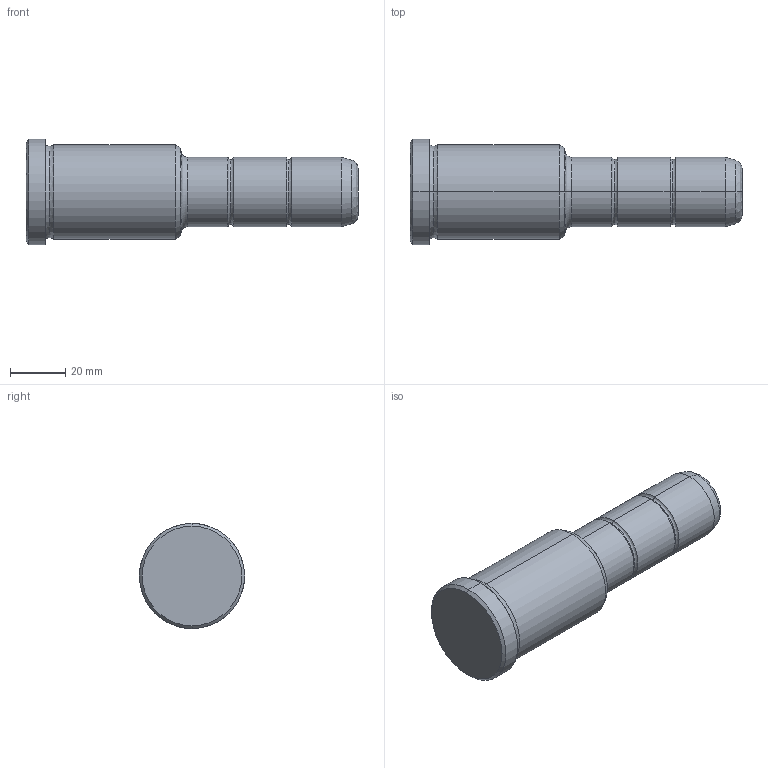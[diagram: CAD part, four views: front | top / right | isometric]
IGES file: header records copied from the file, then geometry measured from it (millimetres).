
Start section: START RECORD GO HERE.
Global section: file name: 351-25X56X120.igs; native system: DASSAULT SYSTEMES CATIA V5 R20 - www.3ds.com; preprocessor: CATIA Version 5 Release 20 ; author: Utente; organization: NB04-ASUS; date: 20210907.122017; units: millimetre
Bounding box: 120 x 38 x 38 mm (x, y, z)
Surface area: 13054.3 mm2 (no closed solid volume)
Topology: 0 solids, 0 shells, 36 faces, 204 edges, 204 vertices
Faces by surface type: revolution 32, plane 4
